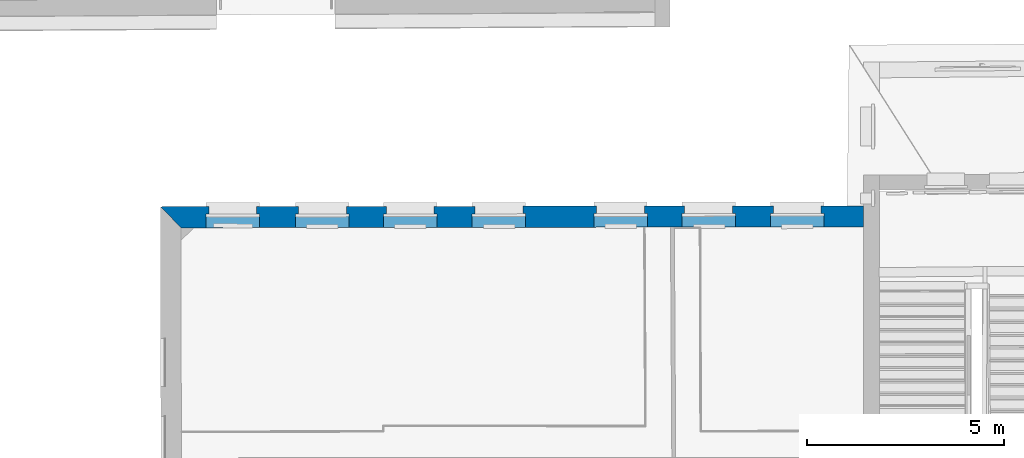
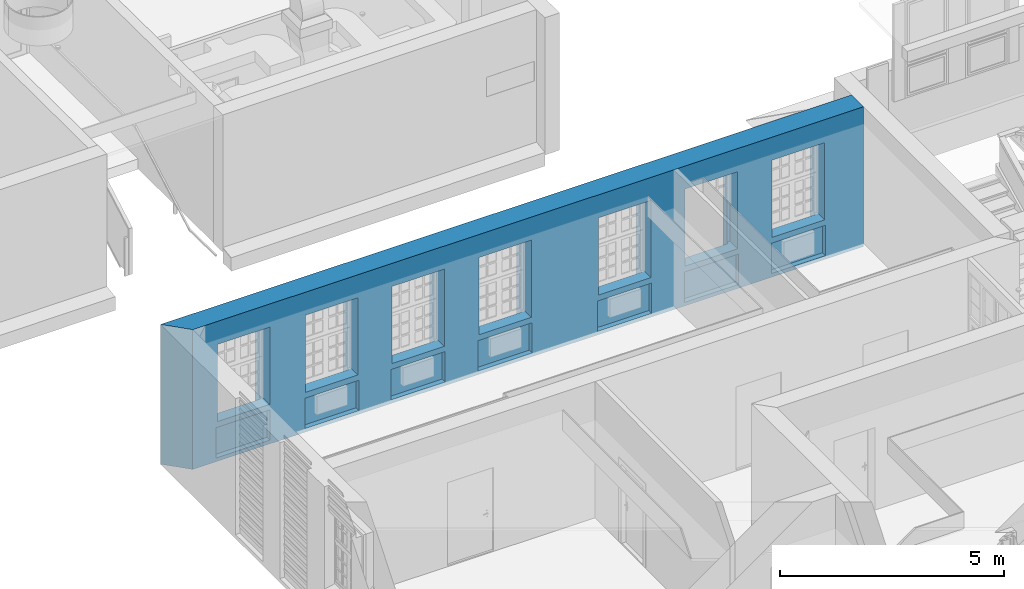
# One storey, part 24 of 158: 1 wall, 14 openings.
"""IFC2X3 building model written with IfcOpenShell, lengths in metres."""

from ifc_helpers import new_model, entity, si_unit, converted_unit, derived_unit, money_unit, direction, frame, origin_with_axes, origin_2d_with_axis, place, context, subcontext, project, spatial, polyline, rectangle, outline, extrude, material, layer, layer_set, layer_usage, type_object, element, save


model = new_model("IFC2X3")

# Units and contexts
model_context = context("Model", 3, precision=1e-05, world=origin_with_axes(), true_north=direction((0.0, 1.0)))
body_context = subcontext(model_context, "Body", "Model", "MODEL_VIEW")
ifc_project = project(units=[si_unit("LENGTHUNIT", "METRE"), si_unit("AREAUNIT", "SQUARE_METRE"), si_unit("VOLUMEUNIT", "CUBIC_METRE"), converted_unit("PLANEANGLEUNIT", "DEGREE", entity("IfcPlaneAngleMeasure", 0.0174532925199), si_unit("PLANEANGLEUNIT", "RADIAN"), dimensions=[0, 0, 0, 0, 0, 0, 0]), money_unit("EUR"), converted_unit("TIMEUNIT", "Year", entity("IfcTimeMeasure", 31556926.0), si_unit("TIMEUNIT", "SECOND"), dimensions=[0, 0, 1, 0, 0, 0, 0]), si_unit("MASSUNIT", "GRAM", prefix="KILO"), si_unit("THERMODYNAMICTEMPERATUREUNIT", "DEGREE_CELSIUS"), si_unit("LUMINOUSINTENSITYUNIT", "LUMEN"), si_unit("ENERGYUNIT", "JOULE", prefix="MEGA"), derived_unit("THERMALCONDUCTANCEUNIT", [(si_unit("POWERUNIT", "WATT"), 1), (si_unit("LENGTHUNIT", "METRE"), -1), (si_unit("THERMODYNAMICTEMPERATUREUNIT", "KELVIN"), -1)]), derived_unit("SPECIFICHEATCAPACITYUNIT", [(si_unit("ENERGYUNIT", "JOULE"), 1), (si_unit("MASSUNIT", "GRAM", prefix="KILO"), -1), (si_unit("THERMODYNAMICTEMPERATUREUNIT", "KELVIN"), -1)]), derived_unit("MASSDENSITYUNIT", [(si_unit("MASSUNIT", "GRAM", prefix="KILO"), 1), (si_unit("VOLUMEUNIT", "CUBIC_METRE"), -1)])], contexts=[model_context])

# Site, building, storey
site_placement = place(None, origin_with_axes())
site = spatial("IfcSite", under=ifc_project, at=site_placement, Name="Gelände", CompositionType="ELEMENT")
building_placement = place(site_placement, origin_with_axes())
building = spatial("IfcBuilding", under=site, at=building_placement, Name="Gebäude", CompositionType="ELEMENT")
storey_placement = place(building_placement, origin_with_axes())
storey = spatial("IfcBuildingStorey", under=building, at=storey_placement, Name="ERDGESCHOSS", CompositionType="ELEMENT", Elevation=0.0)

# Wall, openings
ifc_material = material(Name="05_ALLGEMEIN - TRAGENDE BAUTEILE")
ifc_layer = layer(ifc_material, 0.535, ventilated="UNKNOWN")
ifc_layer_set = layer_set([ifc_layer], Name="05_ALLGEMEIN - TRAGENDE BAUTEILE 0.535")
ifc_layer_usage = layer_usage(ifc_layer_set, "AXIS2", "NEGATIVE", 0.535)
wall_type = type_object("IfcWallType", Name="05_ALLGEMEIN - TRAGENDE BAUTEILE 535", PredefinedType="ELEMENTEDWALL")
wall_placement = place(storey_placement, frame((-9.84211998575, 26.0537025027, -0.21), z_axis=(0.0, 0.0, 1.0), x_axis=(-0.999999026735, -0.00139518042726, 0.0)))
wall = element("IfcWallStandardCase", 1, at=wall_placement, inside=storey, type_object=wall_type, material=ifc_layer_usage, Name="Wand-030", ObjectType="ELEMENTEDWALL", context=body_context, shape_type="SweptSolid", body=[
    extrude(outline(polyline([(0.410000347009, 0.0), (18.2266194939, 0.0), (17.7068660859, 0.535), (0.410696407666, 0.535), (0.410000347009, 0.0)])), origin_with_axes(), (0.0, 0.0, 1.0), 3.81),
])
opening_1_placement = place(wall_placement, frame((16.3968528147, 0.0, 1.07994684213), z_axis=(0.0, 0.0, 1.0), x_axis=(1.0, 0.0, 0.0)))
element("IfcOpeningElement", 2, at=opening_1_placement, cuts=wall, Name="Fenster-015", context=body_context, shape_type="SweptSolid", body=[
    extrude(rectangle(XDim=1.35197006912, YDim=2.10222749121, at=origin_2d_with_axis()), frame((0.0, 0.19, 1.0511137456), z_axis=(0.0, -1.0, 0.0), x_axis=(1.0, 0.0, 0.0)), (0.0, 0.0, -1.0), 0.88),
    extrude(rectangle(XDim=1.21197006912, YDim=2.03222749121, at=origin_2d_with_axis()), frame((0.0, 0.19, 1.0161137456), z_axis=(0.0, 1.0, 0.0), x_axis=(1.0, 0.0, 0.0)), (0.0, 0.0, -1.0), 0.725),
    extrude(rectangle(XDim=1.21197006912, YDim=0.204135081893, at=origin_2d_with_axis()), frame((0.0, 0.251042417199, -0.102067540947), z_axis=(0.0, 1.0, 0.0), x_axis=(1.0, 0.0, 0.0)), (0.0, 0.0, -1.0), 0.596042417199),
])
opening_2_placement = place(wall_placement, frame((14.1251473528, 0.0, 1.07994684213), z_axis=(0.0, 0.0, 1.0), x_axis=(1.0, 0.0, 0.0)))
element("IfcOpeningElement", 3, at=opening_2_placement, cuts=wall, Name="Fenster-015", context=body_context, shape_type="SweptSolid", body=[
    extrude(rectangle(XDim=1.35197006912, YDim=2.10222749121, at=origin_2d_with_axis()), frame((0.0, 0.19, 1.0511137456), z_axis=(0.0, -1.0, 0.0), x_axis=(1.0, 0.0, 0.0)), (0.0, 0.0, -1.0), 0.88),
    extrude(rectangle(XDim=1.21197006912, YDim=2.03222749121, at=origin_2d_with_axis()), frame((0.0, 0.19, 1.0161137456), z_axis=(0.0, 1.0, 0.0), x_axis=(1.0, 0.0, 0.0)), (0.0, 0.0, -1.0), 0.725),
    extrude(rectangle(XDim=1.21197006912, YDim=0.204135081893, at=origin_2d_with_axis()), frame((0.0, 0.251042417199, -0.102067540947), z_axis=(0.0, 1.0, 0.0), x_axis=(1.0, 0.0, 0.0)), (0.0, 0.0, -1.0), 0.596042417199),
])
opening_3_placement = place(wall_placement, frame((11.8961609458, 0.0, 1.07994684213), z_axis=(0.0, 0.0, 1.0), x_axis=(1.0, 0.0, 0.0)))
element("IfcOpeningElement", 4, at=opening_3_placement, cuts=wall, Name="Fenster-015", context=body_context, shape_type="SweptSolid", body=[
    extrude(rectangle(XDim=1.35197006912, YDim=2.10222749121, at=origin_2d_with_axis()), frame((0.0, 0.19, 1.0511137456), z_axis=(0.0, -1.0, 0.0), x_axis=(1.0, 0.0, 0.0)), (0.0, 0.0, -1.0), 0.88),
    extrude(rectangle(XDim=1.21197006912, YDim=2.03222749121, at=origin_2d_with_axis()), frame((0.0, 0.19, 1.0161137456), z_axis=(0.0, 1.0, 0.0), x_axis=(1.0, 0.0, 0.0)), (0.0, 0.0, -1.0), 0.725),
    extrude(rectangle(XDim=1.21197006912, YDim=0.204135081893, at=origin_2d_with_axis()), frame((0.0, 0.251042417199, -0.102067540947), z_axis=(0.0, 1.0, 0.0), x_axis=(1.0, 0.0, 0.0)), (0.0, 0.0, -1.0), 0.596042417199),
])
opening_4_placement = place(wall_placement, frame((9.65104660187, 0.0, 1.07994684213), z_axis=(0.0, 0.0, 1.0), x_axis=(1.0, 0.0, 0.0)))
element("IfcOpeningElement", 5, at=opening_4_placement, cuts=wall, Name="Fenster-015", context=body_context, shape_type="SweptSolid", body=[
    extrude(rectangle(XDim=1.35197006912, YDim=2.10222749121, at=origin_2d_with_axis()), frame((0.0, 0.19, 1.0511137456), z_axis=(0.0, -1.0, 0.0), x_axis=(1.0, 0.0, 0.0)), (0.0, 0.0, -1.0), 0.88),
    extrude(rectangle(XDim=1.21197006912, YDim=2.03222749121, at=origin_2d_with_axis()), frame((0.0, 0.19, 1.0161137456), z_axis=(0.0, 1.0, 0.0), x_axis=(1.0, 0.0, 0.0)), (0.0, 0.0, -1.0), 0.725),
    extrude(rectangle(XDim=1.21197006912, YDim=0.204135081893, at=origin_2d_with_axis()), frame((0.0, 0.251042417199, -0.102067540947), z_axis=(0.0, 1.0, 0.0), x_axis=(1.0, 0.0, 0.0)), (0.0, 0.0, -1.0), 0.596042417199),
])
opening_5_placement = place(wall_placement, frame((6.56595478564, 0.0, 1.07994684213), z_axis=(0.0, 0.0, 1.0), x_axis=(1.0, 0.0, 0.0)))
element("IfcOpeningElement", 6, at=opening_5_placement, cuts=wall, Name="Fenster-015", context=body_context, shape_type="SweptSolid", body=[
    extrude(rectangle(XDim=1.35197006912, YDim=2.10222749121, at=origin_2d_with_axis()), frame((0.0, 0.19, 1.0511137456), z_axis=(0.0, -1.0, 0.0), x_axis=(1.0, 0.0, 0.0)), (0.0, 0.0, -1.0), 0.88),
    extrude(rectangle(XDim=1.21197006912, YDim=2.03222749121, at=origin_2d_with_axis()), frame((0.0, 0.19, 1.0161137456), z_axis=(0.0, 1.0, 0.0), x_axis=(1.0, 0.0, 0.0)), (0.0, 0.0, -1.0), 0.725),
    extrude(rectangle(XDim=1.21197006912, YDim=0.204135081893, at=origin_2d_with_axis()), frame((0.0, 0.251042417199, -0.102067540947), z_axis=(0.0, 1.0, 0.0), x_axis=(1.0, 0.0, 0.0)), (0.0, 0.0, -1.0), 0.596042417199),
])
opening_6_placement = place(wall_placement, frame((4.33420708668, 0.0, 1.07994684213), z_axis=(0.0, 0.0, 1.0), x_axis=(1.0, 0.0, 0.0)))
element("IfcOpeningElement", 7, at=opening_6_placement, cuts=wall, Name="Fenster-015", context=body_context, shape_type="SweptSolid", body=[
    extrude(rectangle(XDim=1.35197006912, YDim=2.10222749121, at=origin_2d_with_axis()), frame((0.0, 0.19, 1.0511137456), z_axis=(0.0, -1.0, 0.0), x_axis=(1.0, 0.0, 0.0)), (0.0, 0.0, -1.0), 0.88),
    extrude(rectangle(XDim=1.21197006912, YDim=2.03222749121, at=origin_2d_with_axis()), frame((0.0, 0.19, 1.0161137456), z_axis=(0.0, 1.0, 0.0), x_axis=(1.0, 0.0, 0.0)), (0.0, 0.0, -1.0), 0.725),
    extrude(rectangle(XDim=1.21197006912, YDim=0.204135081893, at=origin_2d_with_axis()), frame((0.0, 0.251042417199, -0.102067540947), z_axis=(0.0, 1.0, 0.0), x_axis=(1.0, 0.0, 0.0)), (0.0, 0.0, -1.0), 0.596042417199),
])
opening_7_placement = place(wall_placement, frame((2.08969296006, 0.0, 1.07994684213), z_axis=(0.0, 0.0, 1.0), x_axis=(1.0, 0.0, 0.0)))
element("IfcOpeningElement", 8, at=opening_7_placement, cuts=wall, Name="Fenster-015", context=body_context, shape_type="SweptSolid", body=[
    extrude(rectangle(XDim=1.35197006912, YDim=2.10222749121, at=origin_2d_with_axis()), frame((0.0, 0.19, 1.0511137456), z_axis=(0.0, -1.0, 0.0), x_axis=(1.0, 0.0, 0.0)), (0.0, 0.0, -1.0), 0.88),
    extrude(rectangle(XDim=1.21197006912, YDim=2.03222749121, at=origin_2d_with_axis()), frame((0.0, 0.19, 1.0161137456), z_axis=(0.0, 1.0, 0.0), x_axis=(1.0, 0.0, 0.0)), (0.0, 0.0, -1.0), 0.725),
    extrude(rectangle(XDim=1.21197006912, YDim=0.204135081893, at=origin_2d_with_axis()), frame((0.0, 0.251042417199, -0.102067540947), z_axis=(0.0, 1.0, 0.0), x_axis=(1.0, 0.0, 0.0)), (0.0, 0.0, -1.0), 0.596042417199),
])
opening_8_placement = place(wall_placement, frame((16.4081915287, 0.0, 0.1), z_axis=(0.0, 0.0, 1.0), x_axis=(1.0, 0.0, 0.0)))
element("IfcOpeningElement", 9, at=opening_8_placement, cuts=wall, Name="Fenster-016", ObjectType="Recess", context=body_context, shape_type="SweptSolid", body=[
    extrude(rectangle(XDim=1.39316564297, YDim=0.826948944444, at=origin_2d_with_axis()), frame((0.0, 0.405036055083, 0.413474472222), z_axis=(0.0, 1.0, 0.0), x_axis=(1.0, 0.0, 0.0)), (0.0, 0.0, 1.0), 0.664963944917),
])
opening_9_placement = place(wall_placement, frame((14.1155408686, 0.0, 0.1), z_axis=(0.0, 0.0, 1.0), x_axis=(1.0, 0.0, 0.0)))
element("IfcOpeningElement", 10, at=opening_9_placement, cuts=wall, Name="Fenster-016", ObjectType="Recess", context=body_context, shape_type="SweptSolid", body=[
    extrude(rectangle(XDim=1.39316564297, YDim=0.826948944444, at=origin_2d_with_axis()), frame((0.0, 0.405036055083, 0.413474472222), z_axis=(0.0, 1.0, 0.0), x_axis=(1.0, 0.0, 0.0)), (0.0, 0.0, 1.0), 0.664963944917),
])
opening_10_placement = place(wall_placement, frame((11.894413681, 0.0, 0.1), z_axis=(0.0, 0.0, 1.0), x_axis=(1.0, 0.0, 0.0)))
element("IfcOpeningElement", 11, at=opening_10_placement, cuts=wall, Name="Fenster-016", ObjectType="Recess", context=body_context, shape_type="SweptSolid", body=[
    extrude(rectangle(XDim=1.39316564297, YDim=0.826948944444, at=origin_2d_with_axis()), frame((0.0, 0.405036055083, 0.413474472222), z_axis=(0.0, 1.0, 0.0), x_axis=(1.0, 0.0, 0.0)), (0.0, 0.0, 1.0), 0.664963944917),
])
opening_11_placement = place(wall_placement, frame((9.651016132, 0.0, 0.1), z_axis=(0.0, 0.0, 1.0), x_axis=(1.0, 0.0, 0.0)))
element("IfcOpeningElement", 12, at=opening_11_placement, cuts=wall, Name="Fenster-016", ObjectType="Recess", context=body_context, shape_type="SweptSolid", body=[
    extrude(rectangle(XDim=1.39316564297, YDim=0.826948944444, at=origin_2d_with_axis()), frame((0.0, 0.405036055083, 0.413474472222), z_axis=(0.0, 1.0, 0.0), x_axis=(1.0, 0.0, 0.0)), (0.0, 0.0, 1.0), 0.664963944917),
])
opening_12_placement = place(wall_placement, frame((6.56764833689, 0.0, 0.1), z_axis=(0.0, 0.0, 1.0), x_axis=(1.0, 0.0, 0.0)))
element("IfcOpeningElement", 13, at=opening_12_placement, cuts=wall, Name="Fenster-016", ObjectType="Recess", context=body_context, shape_type="SweptSolid", body=[
    extrude(rectangle(XDim=1.39316564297, YDim=0.826948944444, at=origin_2d_with_axis()), frame((0.0, 0.405036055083, 0.413474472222), z_axis=(0.0, 1.0, 0.0), x_axis=(1.0, 0.0, 0.0)), (0.0, 0.0, 1.0), 0.664963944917),
])
opening_13_placement = place(wall_placement, frame((4.32265280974, 0.0, 0.1), z_axis=(0.0, 0.0, 1.0), x_axis=(1.0, 0.0, 0.0)))
element("IfcOpeningElement", 14, at=opening_13_placement, cuts=wall, Name="Fenster-016", ObjectType="Recess", context=body_context, shape_type="SweptSolid", body=[
    extrude(rectangle(XDim=1.39316564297, YDim=0.826948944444, at=origin_2d_with_axis()), frame((0.0, 0.405036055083, 0.413474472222), z_axis=(0.0, 1.0, 0.0), x_axis=(1.0, 0.0, 0.0)), (0.0, 0.0, 1.0), 0.664963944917),
])
opening_14_placement = place(wall_placement, frame((2.08708547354, 0.0, 0.1), z_axis=(0.0, 0.0, 1.0), x_axis=(1.0, 0.0, 0.0)))
element("IfcOpeningElement", 15, at=opening_14_placement, cuts=wall, Name="Fenster-016", ObjectType="Recess", context=body_context, shape_type="SweptSolid", body=[
    extrude(rectangle(XDim=1.39316564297, YDim=0.826948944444, at=origin_2d_with_axis()), frame((0.0, 0.405036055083, 0.413474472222), z_axis=(0.0, 1.0, 0.0), x_axis=(1.0, 0.0, 0.0)), (0.0, 0.0, 1.0), 0.664963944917),
])

save(model, "model.ifc")
